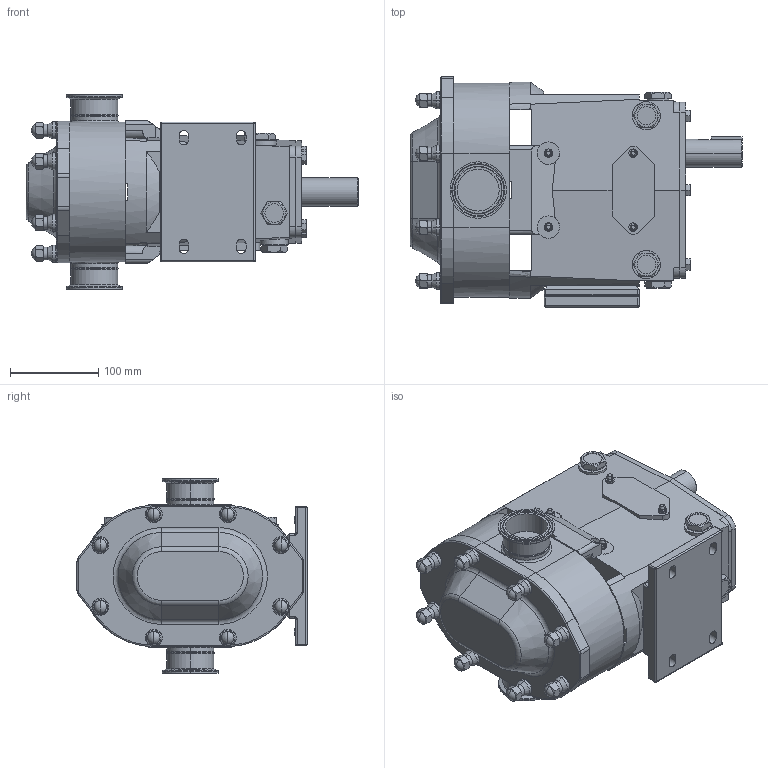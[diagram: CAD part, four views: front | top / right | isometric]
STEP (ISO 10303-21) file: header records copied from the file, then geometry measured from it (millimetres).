
FILE_DESCRIPTION (( 'STEP AP203' ), '1' );
FILE_NAME ('Joined_040_U2_Upper Shaft.STEP', '2008-03-06T11:18:19', ( '' ), ( '' ), 'SwSTEP 2.0', 'SolidWorks 2006233', '' );
FILE_SCHEMA (( 'CONFIG_CONTROL_DESIGN' ));
Length unit declared in the file: inch
Products named in the file (1): Joined_040_U2_Upper Shaft
Bounding box: 376.28 x 260.68 x 220.32 mm (x, y, z)
Volume: 7995339 mm3; surface area: 443441.1 mm2
Topology: 1 solids, 29 shells, 1547 faces, 3749 edges, 2325 vertices
Faces by surface type: plane 781, cylinder 319, cone 255, bspline 109, torus 59, sphere 24
Entity records: 47548 total; most frequent: CARTESIAN_POINT 12408, ORIENTED_EDGE 7338, DIRECTION 6962, EDGE_CURVE 3669, AXIS2_PLACEMENT_3D 2372, VERTEX_POINT 2325, VECTOR 2218, LINE 2218
